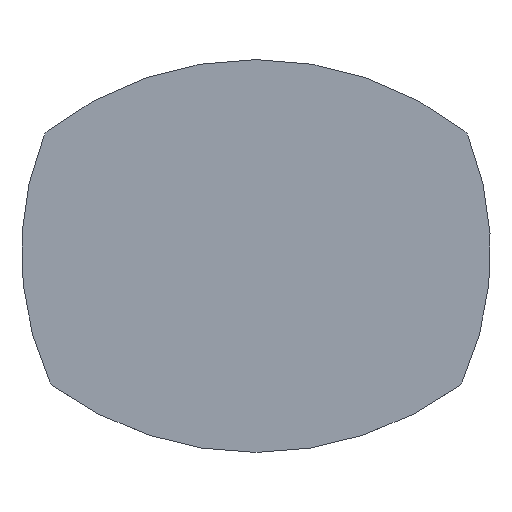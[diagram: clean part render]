
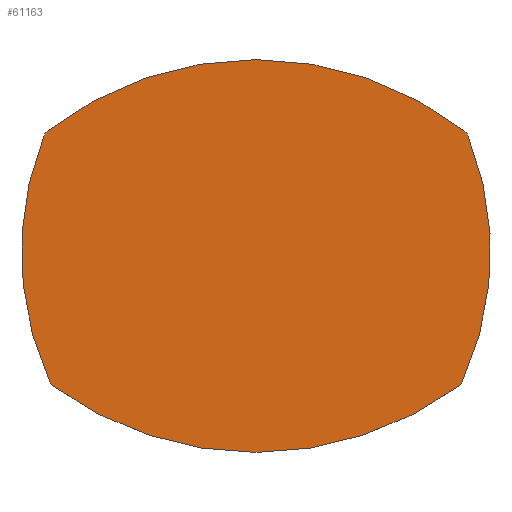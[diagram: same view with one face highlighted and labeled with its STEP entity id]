
A CAD part, top view. The second image highlights one B-rep face of the part: STEP entity #61163.
In plain terms, the highlighted planar face has unit normal (0, 0, 1).
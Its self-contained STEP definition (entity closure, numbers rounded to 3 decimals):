
#3723=CIRCLE('',#66625,10.);
#3724=CIRCLE('',#66627,355.);
#3725=CIRCLE('',#66628,10.);
#3726=CIRCLE('',#66629,323.);
#3727=CIRCLE('',#66630,10.);
#3728=CIRCLE('',#66631,352.);
#3729=CIRCLE('',#66632,10.);
#3730=CIRCLE('',#66633,323.);
#7124=FACE_OUTER_BOUND('',#10519,.T.);
#10519=EDGE_LOOP('',(#52895,#52896,#52897,#52898,#52899,#52900,#52901,#52902));
#27707=VERTEX_POINT('',#102597);
#27708=VERTEX_POINT('',#102599);
#27709=VERTEX_POINT('',#102603);
#27710=VERTEX_POINT('',#102605);
#27711=VERTEX_POINT('',#102607);
#27712=VERTEX_POINT('',#102609);
#27713=VERTEX_POINT('',#102611);
#27714=VERTEX_POINT('',#102613);
#36105=EDGE_CURVE('',#27707,#27708,#3723,.T.);
#36107=EDGE_CURVE('',#27709,#27707,#3724,.T.);
#36108=EDGE_CURVE('',#27710,#27709,#3725,.T.);
#36109=EDGE_CURVE('',#27711,#27710,#3726,.T.);
#36110=EDGE_CURVE('',#27712,#27711,#3727,.T.);
#36111=EDGE_CURVE('',#27713,#27712,#3728,.T.);
#36112=EDGE_CURVE('',#27714,#27713,#3729,.T.);
#36113=EDGE_CURVE('',#27708,#27714,#3730,.T.);
#52895=ORIENTED_EDGE('',*,*,#36105,.F.);
#52896=ORIENTED_EDGE('',*,*,#36107,.F.);
#52897=ORIENTED_EDGE('',*,*,#36108,.F.);
#52898=ORIENTED_EDGE('',*,*,#36109,.F.);
#52899=ORIENTED_EDGE('',*,*,#36110,.F.);
#52900=ORIENTED_EDGE('',*,*,#36111,.F.);
#52901=ORIENTED_EDGE('',*,*,#36112,.F.);
#52902=ORIENTED_EDGE('',*,*,#36113,.F.);
#54881=PLANE('',#66626);
#61163=ADVANCED_FACE('',(#7124),#54881,.F.);
#66625=AXIS2_PLACEMENT_3D('',#102600,#83312,#83313);
#66626=AXIS2_PLACEMENT_3D('',#102602,#83315,#83316);
#66627=AXIS2_PLACEMENT_3D('',#102604,#83317,#83318);
#66628=AXIS2_PLACEMENT_3D('',#102606,#83319,#83320);
#66629=AXIS2_PLACEMENT_3D('',#102608,#83321,#83322);
#66630=AXIS2_PLACEMENT_3D('',#102610,#83323,#83324);
#66631=AXIS2_PLACEMENT_3D('',#102612,#83325,#83326);
#66632=AXIS2_PLACEMENT_3D('',#102614,#83327,#83328);
#66633=AXIS2_PLACEMENT_3D('',#102615,#83329,#83330);
#83312=DIRECTION('center_axis',(0.,0.,
-1.));
#83313=DIRECTION('ref_axis',(-0.776,-0.631,0.));
#83315=DIRECTION('center_axis',(0.,0.,
-1.));
#83316=DIRECTION('ref_axis',(1.,0.,0.));
#83317=DIRECTION('center_axis',(0.,0.,
-1.));
#83318=DIRECTION('ref_axis',(0.599,-0.801,0.));
#83319=DIRECTION('center_axis',(0.,0.,
-1.));
#83320=DIRECTION('ref_axis',(0.776,-0.631,0.));
#83321=DIRECTION('center_axis',(0.,0.,
-1.));
#83322=DIRECTION('ref_axis',(0.924,0.382,0.));
#83323=DIRECTION('center_axis',(0.,0.,
-1.));
#83324=DIRECTION('ref_axis',(0.798,0.602,0.));
#83325=DIRECTION('center_axis',(0.,0.,
-1.));
#83326=DIRECTION('ref_axis',(-0.621,0.784,0.));
#83327=DIRECTION('center_axis',(0.,0.,
-1.));
#83328=DIRECTION('ref_axis',(-0.798,0.602,0.));
#83329=DIRECTION('center_axis',(0.,0.,
-1.));
#83330=DIRECTION('ref_axis',(-0.906,-0.424,0.));
#102597=CARTESIAN_POINT('',(-210.525,-285.84,569.));
#102599=CARTESIAN_POINT('',(-213.687,-281.95,569.));
#102600=CARTESIAN_POINT('Origin',(-204.595,-277.788,569.));
#102602=CARTESIAN_POINT('Origin',(0.,-151.453,
569.));
#102603=CARTESIAN_POINT('',(210.525,-285.84,569.));
#102604=CARTESIAN_POINT('Origin',(0.,0.,
569.));
#102605=CARTESIAN_POINT('',(213.687,-281.95,569.));
#102606=CARTESIAN_POINT('Origin',(204.595,-277.788,569.));
#102607=CARTESIAN_POINT('',(219.469,-26.473,569.));
#102608=CARTESIAN_POINT('Origin',(-80.,-147.5,569.));
#102609=CARTESIAN_POINT('',(216.343,-22.332,569.));
#102610=CARTESIAN_POINT('Origin',(210.197,-30.22,569.));
#102611=CARTESIAN_POINT('',(-216.343,-22.332,569.));
#102612=CARTESIAN_POINT('Origin',(0.,-300.,569.));
#102613=CARTESIAN_POINT('',(-219.469,-26.473,569.));
#102614=CARTESIAN_POINT('Origin',(-210.197,-30.22,569.));
#102615=CARTESIAN_POINT('Origin',(80.,-147.5,569.));
